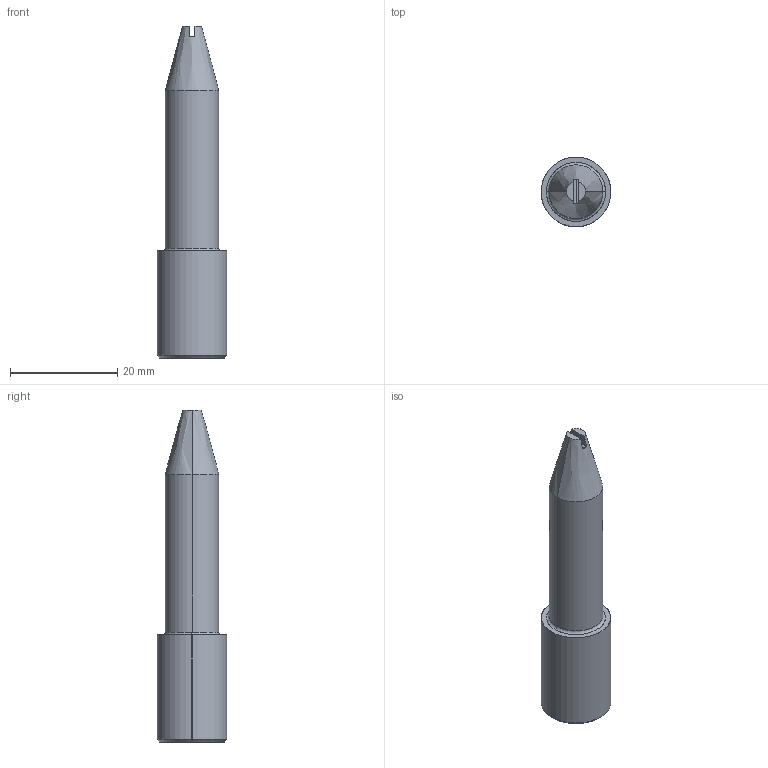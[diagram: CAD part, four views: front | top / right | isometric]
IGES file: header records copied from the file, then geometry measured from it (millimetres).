
Global section: file name: E:\UnigraphicsGraphicData\MISUMI_PRESS-PARTS\IGES\3d_sdsth13-p10.00-b30_02969_r00.igs; native system: NX V5.0; preprocessor: UGS NX IGES V5.0; author: MISUMI; date: 20110105.162517; units: millimetre
Bounding box: 13 x 13 x 62 mm (x, y, z)
Surface area: 2617.5 mm2 (no closed solid volume)
Topology: 0 solids, 0 shells, 21 faces, 124 edges, 124 vertices
Faces by surface type: bspline 21
